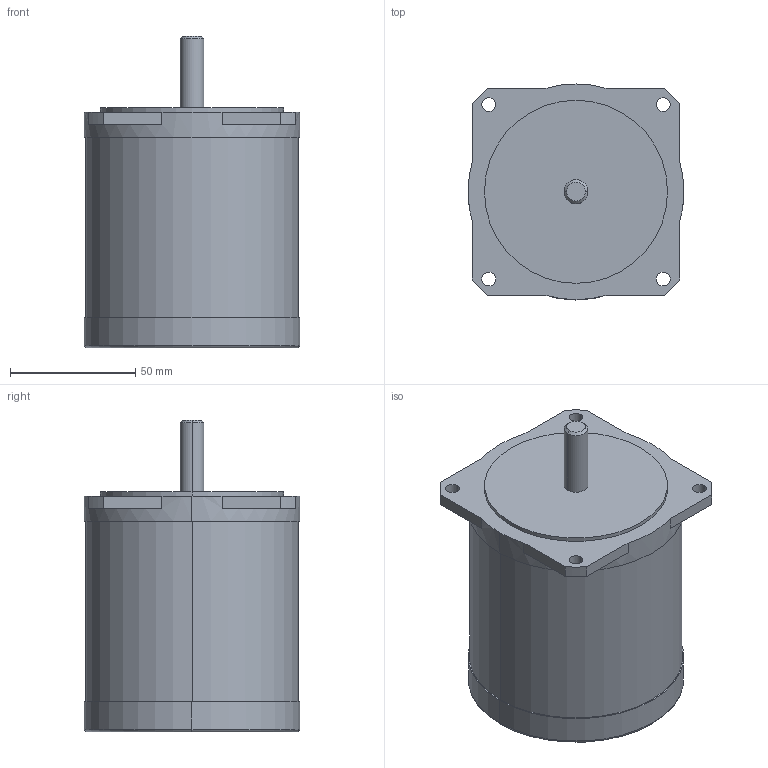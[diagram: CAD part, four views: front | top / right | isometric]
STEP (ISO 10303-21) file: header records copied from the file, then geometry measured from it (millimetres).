
FILE_DESCRIPTION (( 'STEP AP214' ), '1' );
FILE_NAME ('TS3134N1E2.STEP', '2016-09-09T05:52:29', ( 'hoho' ), ( '' ), 'SwSTEP 2.0', 'SolidWorks 2013', '' );
FILE_SCHEMA (( 'AUTOMOTIVE_DESIGN' ));
Length unit declared in the file: millimetre
Products named in the file (1): TS3134N1E2
Bounding box: 86 x 86 x 124.2 mm (x, y, z)
Volume: 549617.5 mm3; surface area: 40616.4 mm2
Topology: 1 solids, 1 shells, 44 faces, 110 edges, 72 vertices
Faces by surface type: cylinder 22, plane 18, torus 2, cone 2
Entity records: 1412 total; most frequent: DIRECTION 258, CARTESIAN_POINT 227, ORIENTED_EDGE 220, EDGE_CURVE 110, AXIS2_PLACEMENT_3D 103, VERTEX_POINT 72, CIRCLE 58, EDGE_LOOP 56
